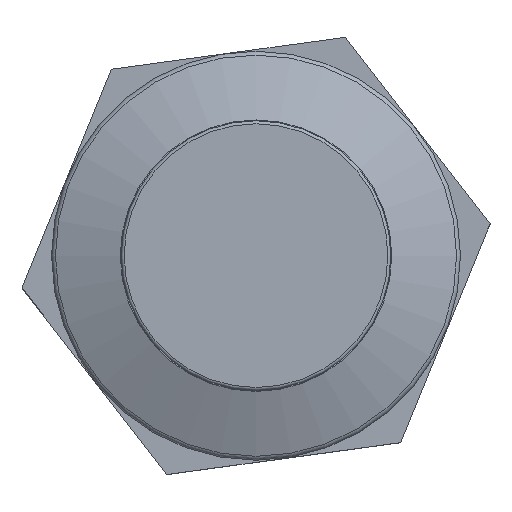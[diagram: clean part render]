
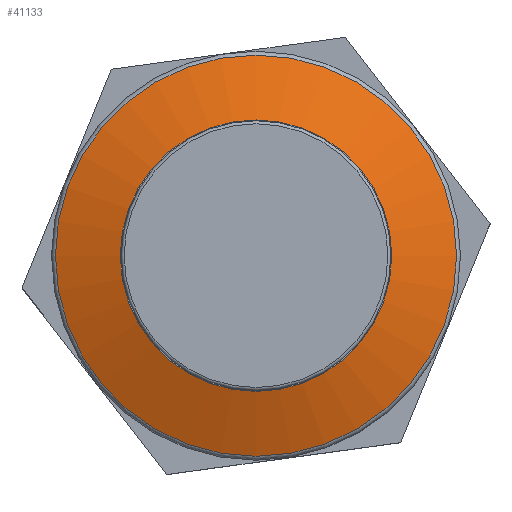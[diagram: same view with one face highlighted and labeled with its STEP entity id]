
A CAD part, top view. The second image highlights one B-rep face of the part: STEP entity #41133.
In plain terms, the highlighted conical face has half-angle 69.585 degrees and reference radius 5.79 mm.
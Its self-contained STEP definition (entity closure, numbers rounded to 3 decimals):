
#41069=CARTESIAN_POINT('',(6.77,0.,20.205));
#41070=VERTEX_POINT('',#41069);
#41080=CARTESIAN_POINT('',(-6.77,-0.,20.205));
#41081=VERTEX_POINT('',#41080);
#41082=CARTESIAN_POINT('',(-0.,0.,20.205));
#41083=DIRECTION('',(0.,0.,-1.));
#41084=DIRECTION('',(-1.,0.,0.));
#41085=AXIS2_PLACEMENT_3D('',#41082,#41083,#41084);
#41086=CIRCLE('',#41085,6.77);
#41087=EDGE_CURVE('',#41070,#41081,#41086,.T.);
#41089=CARTESIAN_POINT('',(-0.,0.,20.205));
#41090=DIRECTION('',(0.,0.,-1.));
#41091=DIRECTION('',(-1.,0.,0.));
#41092=AXIS2_PLACEMENT_3D('',#41089,#41090,#41091);
#41093=CIRCLE('',#41092,6.77);
#41094=EDGE_CURVE('',#41081,#41070,#41093,.T.);
#41099=CARTESIAN_POINT('',(-0.,0.,20.57));
#41100=DIRECTION('',(0.,0.,-1.));
#41101=DIRECTION('',(1.,0.,0.));
#41102=AXIS2_PLACEMENT_3D('',#41099,#41100,#41101);
#41103=CONICAL_SURFACE('',#41102,5.79,69.585);
#41104=CARTESIAN_POINT('',(4.58,0.,21.02));
#41105=VERTEX_POINT('',#41104);
#41106=CARTESIAN_POINT('',(6.77,0.,20.205));
#41107=DIRECTION('',(-0.937,-0.,0.349));
#41108=VECTOR('',#41107,2.337);
#41109=LINE('',#41106,#41108);
#41110=EDGE_CURVE('',#41070,#41105,#41109,.T.);
#41111=ORIENTED_EDGE('',*,*,#41110,.T.);
#41112=CARTESIAN_POINT('',(-4.58,-0.,21.02));
#41113=VERTEX_POINT('',#41112);
#41114=CARTESIAN_POINT('',(-0.,0.,21.02));
#41115=DIRECTION('',(-0.,-0.,1.));
#41116=DIRECTION('',(-1.,0.,0.));
#41117=AXIS2_PLACEMENT_3D('',#41114,#41115,#41116);
#41118=CIRCLE('',#41117,4.58);
#41119=EDGE_CURVE('',#41113,#41105,#41118,.T.);
#41120=ORIENTED_EDGE('',*,*,#41119,.F.);
#41121=CARTESIAN_POINT('',(-0.,0.,21.02));
#41122=DIRECTION('',(-0.,-0.,1.));
#41123=DIRECTION('',(-1.,0.,0.));
#41124=AXIS2_PLACEMENT_3D('',#41121,#41122,#41123);
#41125=CIRCLE('',#41124,4.58);
#41126=EDGE_CURVE('',#41105,#41113,#41125,.T.);
#41127=ORIENTED_EDGE('',*,*,#41126,.F.);
#41128=ORIENTED_EDGE('',*,*,#41110,.F.);
#41129=ORIENTED_EDGE('',*,*,#41094,.F.);
#41130=ORIENTED_EDGE('',*,*,#41087,.F.);
#41131=EDGE_LOOP('',(#41111,#41120,#41127,#41128,#41129,#41130));
#41132=FACE_BOUND('',#41131,.T.);
#41133=ADVANCED_FACE('',(#41132),#41103,.T.);
